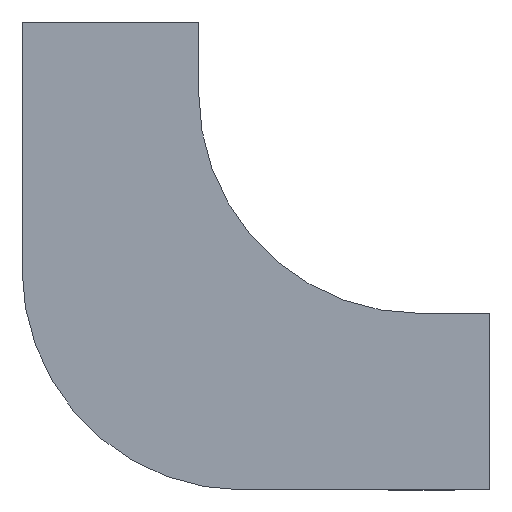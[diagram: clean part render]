
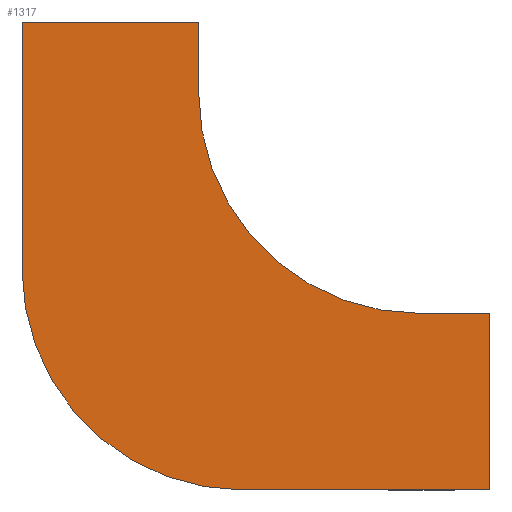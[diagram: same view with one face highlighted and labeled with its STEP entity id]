
A CAD part, front view. The second image highlights one B-rep face of the part: STEP entity #1317.
In plain terms, the highlighted planar face has unit normal (0, -1, 0).
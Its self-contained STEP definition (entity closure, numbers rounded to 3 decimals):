
#73 = CARTESIAN_POINT ( 'NONE',  ( 0., 0., -125. ) ) ;
#82 = VECTOR ( 'NONE', #191, 1000. ) ;
#103 = CARTESIAN_POINT ( 'NONE',  ( 40., 0., -225. ) ) ;
#137 = EDGE_CURVE ( 'NONE', #940, #615, #429, .T. ) ;
#168 = DIRECTION ( 'NONE',  ( 0., 1., 0. ) ) ;
#177 = CARTESIAN_POINT ( 'NONE',  ( -100., 0., -100. ) ) ;
#179 = ORIENTED_EDGE ( 'NONE', *, *, #748, .F. ) ;
#191 = DIRECTION ( 'NONE',  ( 0., 0., -1. ) ) ;
#196 = CARTESIAN_POINT ( 'NONE',  ( 0., 0., 0. ) ) ;
#233 = AXIS2_PLACEMENT_3D ( 'NONE', #196, #842, #1513 ) ;
#256 = CIRCLE ( 'NONE', #1227, 125. ) ;
#312 = CARTESIAN_POINT ( 'NONE',  ( -100., 0., -225. ) ) ;
#314 = VERTEX_POINT ( 'NONE', #312 ) ;
#335 = LINE ( 'NONE', #1117, #82 ) ;
#361 = CARTESIAN_POINT ( 'NONE',  ( 40., 0., -125. ) ) ;
#387 = DIRECTION ( 'NONE',  ( 0., 0., -1. ) ) ;
#426 = LINE ( 'NONE', #807, #753 ) ;
#429 = CIRCLE ( 'NONE', #1162, 125. ) ;
#437 = CARTESIAN_POINT ( 'NONE',  ( -125., 0., 0. ) ) ;
#444 = VECTOR ( 'NONE', #1408, 1000. ) ;
#445 = CARTESIAN_POINT ( 'NONE',  ( -225., 0., -100. ) ) ;
#472 = LINE ( 'NONE', #736, #444 ) ;
#502 = DIRECTION ( 'NONE',  ( 0., -1., 0. ) ) ;
#519 = VERTEX_POINT ( 'NONE', #361 ) ;
#525 = VECTOR ( 'NONE', #1637, 1000. ) ;
#560 = ORIENTED_EDGE ( 'NONE', *, *, #976, .F. ) ;
#615 = VERTEX_POINT ( 'NONE', #1036 ) ;
#661 = DIRECTION ( 'NONE',  ( 0., 0., 1. ) ) ;
#675 = DIRECTION ( 'NONE',  ( -1., 0., 0. ) ) ;
#676 = EDGE_CURVE ( 'NONE', #519, #1433, #1550, .T. ) ;
#679 = ORIENTED_EDGE ( 'NONE', *, *, #1470, .F. ) ;
#728 = ORIENTED_EDGE ( 'NONE', *, *, #676, .F. ) ;
#729 = DIRECTION ( 'NONE',  ( 1., 0., 0. ) ) ;
#736 = CARTESIAN_POINT ( 'NONE',  ( -225., 0., -100. ) ) ;
#748 = EDGE_CURVE ( 'NONE', #314, #929, #256, .T. ) ;
#752 = FACE_OUTER_BOUND ( 'NONE', #1490, .T. ) ;
#753 = VECTOR ( 'NONE', #675, 1000. ) ;
#807 = CARTESIAN_POINT ( 'NONE',  ( 40., 0., -225. ) ) ;
#842 = DIRECTION ( 'NONE',  ( 0., -1., 0. ) ) ;
#874 = EDGE_CURVE ( 'NONE', #947, #1231, #985, .T. ) ;
#929 = VERTEX_POINT ( 'NONE', #445 ) ;
#940 = VERTEX_POINT ( 'NONE', #437 ) ;
#946 = EDGE_CURVE ( 'NONE', #1231, #940, #335, .T. ) ;
#947 = VERTEX_POINT ( 'NONE', #959 ) ;
#959 = CARTESIAN_POINT ( 'NONE',  ( -225., 0., 40. ) ) ;
#973 = ORIENTED_EDGE ( 'NONE', *, *, #1198, .F. ) ;
#976 = EDGE_CURVE ( 'NONE', #615, #519, #1219, .T. ) ;
#985 = LINE ( 'NONE', #1488, #1255 ) ;
#1018 = VECTOR ( 'NONE', #387, 1000. ) ;
#1036 = CARTESIAN_POINT ( 'NONE',  ( 0., 0., -125. ) ) ;
#1117 = CARTESIAN_POINT ( 'NONE',  ( -125., 0., 40. ) ) ;
#1148 = CARTESIAN_POINT ( 'NONE',  ( 0., 0., 0. ) ) ;
#1162 = AXIS2_PLACEMENT_3D ( 'NONE', #1148, #502, #1536 ) ;
#1198 = EDGE_CURVE ( 'NONE', #1433, #314, #426, .T. ) ;
#1219 = LINE ( 'NONE', #73, #525 ) ;
#1227 = AXIS2_PLACEMENT_3D ( 'NONE', #177, #168, #661 ) ;
#1229 = PLANE ( 'NONE',  #233 ) ;
#1231 = VERTEX_POINT ( 'NONE', #1468 ) ;
#1255 = VECTOR ( 'NONE', #729, 1000. ) ;
#1275 = CARTESIAN_POINT ( 'NONE',  ( 40., 0., -125. ) ) ;
#1300 = ORIENTED_EDGE ( 'NONE', *, *, #137, .F. ) ;
#1317 = ADVANCED_FACE ( 'NONE', ( #752 ), #1229, .T. ) ;
#1408 = DIRECTION ( 'NONE',  ( 0., 0., 1. ) ) ;
#1433 = VERTEX_POINT ( 'NONE', #103 ) ;
#1444 = ORIENTED_EDGE ( 'NONE', *, *, #874, .F. ) ;
#1468 = CARTESIAN_POINT ( 'NONE',  ( -125., 0., 40. ) ) ;
#1470 = EDGE_CURVE ( 'NONE', #929, #947, #472, .T. ) ;
#1488 = CARTESIAN_POINT ( 'NONE',  ( -225., 0., 40. ) ) ;
#1490 = EDGE_LOOP ( 'NONE', ( #1444, #679, #179, #973, #728, #560, #1300, #1593 ) ) ;
#1513 = DIRECTION ( 'NONE',  ( 0., 0., -1. ) ) ;
#1536 = DIRECTION ( 'NONE',  ( 0., 0., -1. ) ) ;
#1550 = LINE ( 'NONE', #1275, #1018 ) ;
#1593 = ORIENTED_EDGE ( 'NONE', *, *, #946, .F. ) ;
#1637 = DIRECTION ( 'NONE',  ( 1., 0., 0. ) ) ;
